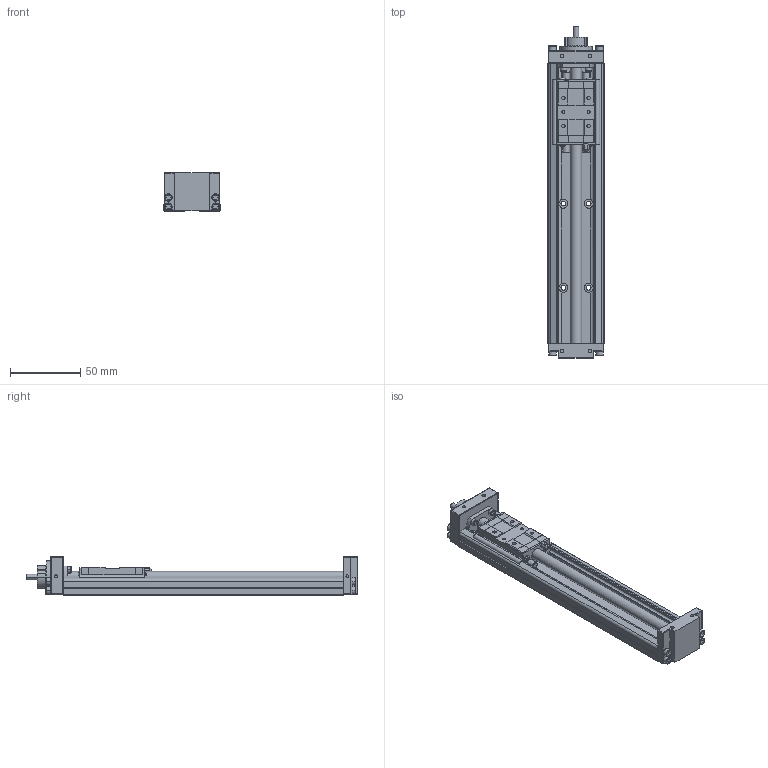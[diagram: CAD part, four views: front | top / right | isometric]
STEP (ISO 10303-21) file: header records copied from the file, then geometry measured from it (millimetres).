
FILE_DESCRIPTION(('no description'),'unknown implementation level');
FILE_NAME('KK4001P200A1H0000_FILE_3.stp',' ',('HIWIN GmbH'),('CADClick - KiM GmbH - www.kimweb.de'),'unknown preprocess','ACIS','unknown authorization');
FILE_SCHEMA(('automotive_design'));
Length unit declared in the file: millimetre
Products named in the file (2): KK40_FILE; KK4001P200A1H0000_FILE
Bounding box: 40 x 236.5 x 27.5 mm (x, y, z)
Volume: 104776.2 mm3; surface area: 45912.9 mm2
Topology: 2 solids, 14 shells, 727 faces, 1841 edges, 1186 vertices
Faces by surface type: plane 446, cylinder 237, torus 42, sphere 2
Entity records: 43578 total; most frequent: CARTESIAN_POINT 4528, DIRECTION 3872, STYLED_ITEM 3756, PRESENTATION_STYLE_ASSIGNMENT 3756, COLOUR_RGB 3756, ORIENTED_EDGE 3682, EDGE_CURVE 1841, CURVE_STYLE 1841
